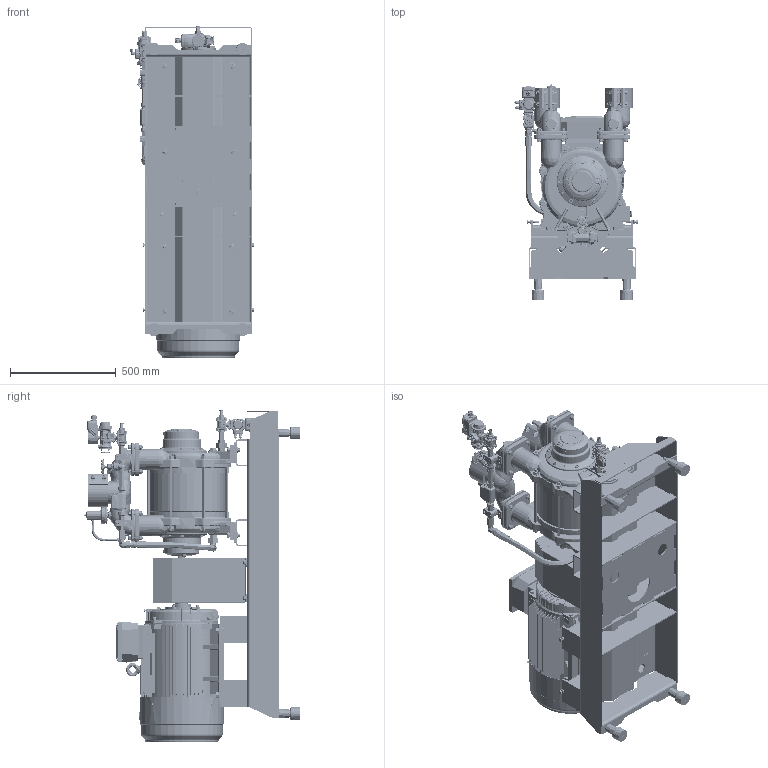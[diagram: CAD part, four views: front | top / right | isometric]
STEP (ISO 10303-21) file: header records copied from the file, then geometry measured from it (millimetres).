
FILE_DESCRIPTION(/* description */ (''),/* implementation_level */ '2;1');
FILE_NAME(/* name */ '1700118A.stp',/* time_stamp */ '2025-05-02T11:25:07+02:00',/* author */ ('JJ'),/* organization */ (''),/* preprocessor_version */ 'ST-DEVELOPER v20',/* originating_system */ 'Autodesk Inventor 2025',/* authorisation */ '');
FILE_SCHEMA (('AUTOMOTIVE_DESIGN { 1 0 10303 214 3 1 1 }'));
Products named in the file (1): 1700118A
Bounding box: 583.35 x 1019 x 1570.18 mm (x, y, z)
Volume: 94338528.8 mm3; surface area: 13290840.3 mm2
Topology: 179 solids, 179 shells, 23938 faces, 60963 edges, 38515 vertices
Faces by surface type: plane 10262, cylinder 5293, bspline 4210, cone 2232, torus 1754, sphere 187
Full cylindrical faces by diameter (mm): 0.8 x1, 0.847 x2, 0.857 x2, 1.656 x4, 1.676 x1, 1.7 x4, 1.8 x4, 2 x20, 2.2 x1, 2.5 x6, 3 x4, 3.2 x4, 3.3 x8, 3.6 x4, 4 x4, 4.134 x8, 4.2 x16, 4.3 x8, 4.45 x3, 4.567 x8, 4.917 x15, 4.92 x4, 5 x17, 5.3 x8, 5.589 x1, 5.6 x16, 6 x51, 6.1 x1, 6.4 x5, 6.5 x12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
Entity records: 1150380 total; most frequent: CARTESIAN_POINT 578503, ORIENTED_EDGE 121452, DIRECTION 103589, EDGE_CURVE 60726, VERTEX_POINT 38531, AXIS2_PLACEMENT_3D 37333, LINE 28923, VECTOR 28923
